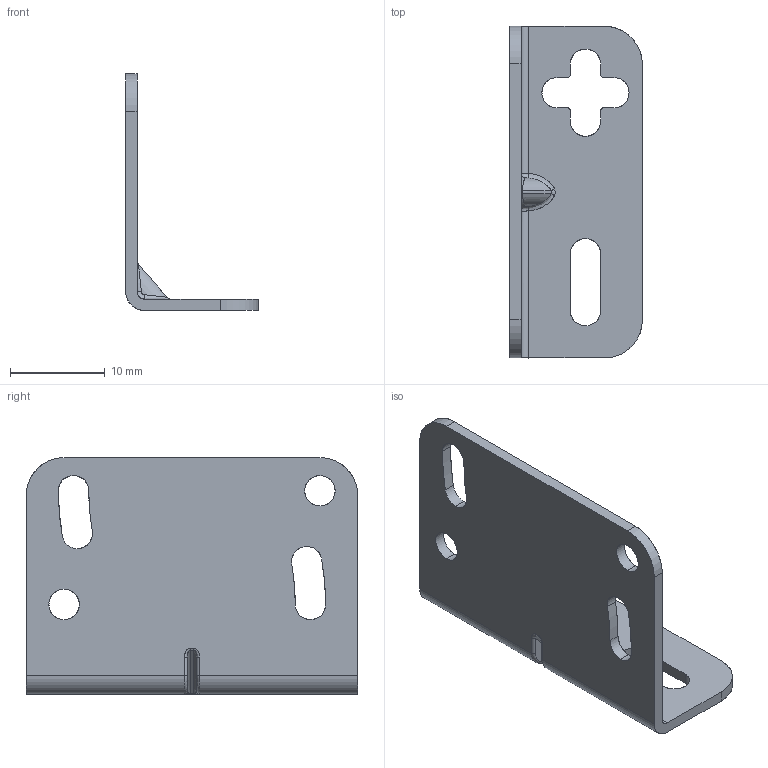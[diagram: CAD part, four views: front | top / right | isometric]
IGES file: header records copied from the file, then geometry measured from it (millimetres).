
Start section: SolidWorks IGES file using analytic representation for surfaces
Global section: file name: \\PC-10110196\Users\Public\2. 扁鸥磊丰\BY, BYD 宏扼南 2D, 3D\BYD BRACKET A\BYD BRACKET A.IGS; native system: SolidWorks 2018; preprocessor: SolidWorks 2018; author: 悼痹,,; organization: 11; date: 240621.154342; units: millimetre
Bounding box: 14 x 35 x 25 mm (x, y, z)
Surface area: 2623.2 mm2 (no closed solid volume)
Topology: 0 solids, 0 shells, 80 faces, 1032 edges, 1032 vertices
Faces by surface type: revolution 44, bspline 36
